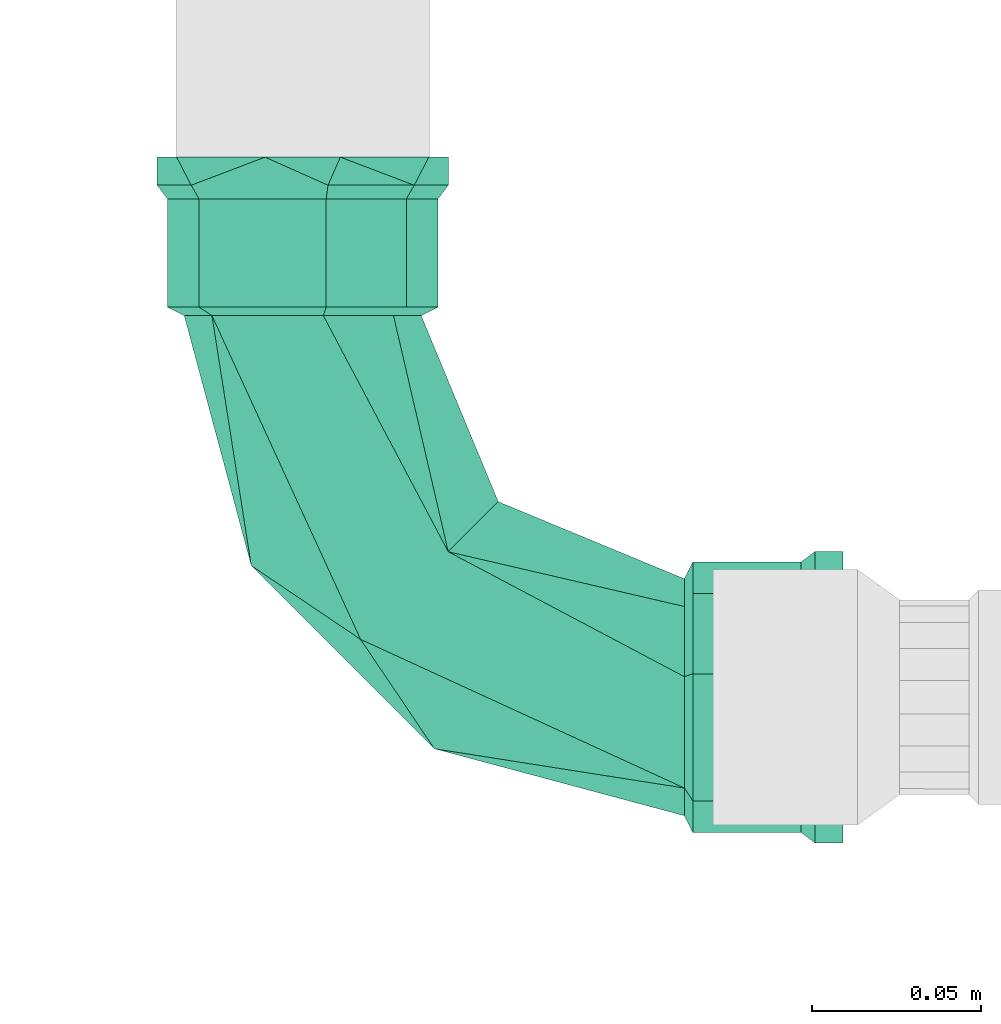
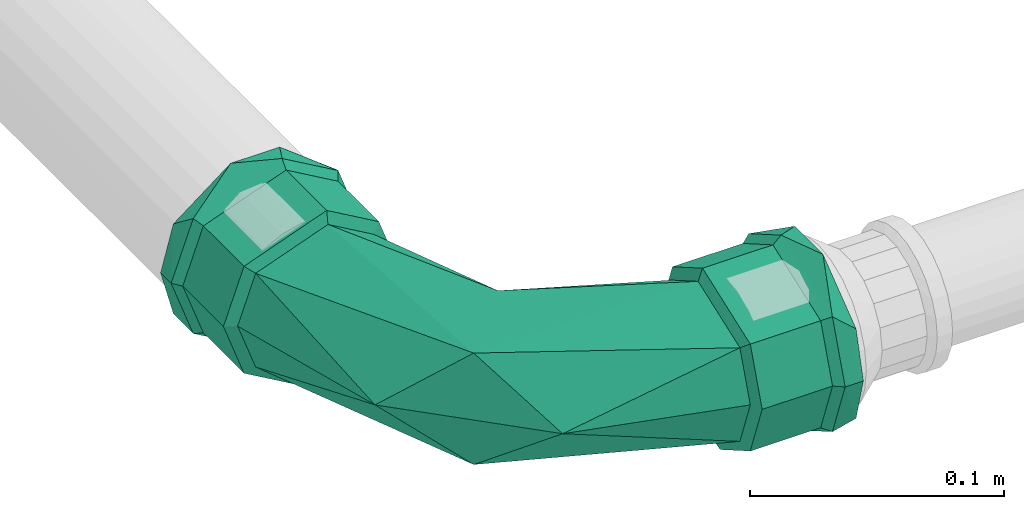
# One storey, part 45 of 166: 1 flow fitting.
"""IFC2X3 building model written with IfcOpenShell, lengths in metres."""

from ifc_helpers import new_model, entity, si_unit, converted_unit, direction, frame, origin, place, context, subcontext, project, spatial, faceted_brep, source, transform, mapped, material, type_object, type_shapes, element, save


model = new_model("IFC2X3")

# Units and contexts
model_context = context("Model", 3, precision=1e-05, world=origin(), true_north=direction((6.123233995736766e-17, 1.0)))
body_context = subcontext(model_context, "Body", "Model", "MODEL_VIEW")
ifc_project = project(units=[si_unit("LENGTHUNIT", "METRE"), converted_unit("PLANEANGLEUNIT", "DEGREE", entity("IfcPlaneAngleMeasure", 0.017453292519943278), si_unit("PLANEANGLEUNIT", "RADIAN"), dimensions=[0, 0, 0, 0, 0, 0, 0]), si_unit("AREAUNIT", "SQUARE_METRE")], contexts=[model_context])

# Site, building, storey
site_placement = place(None, origin())
site = spatial("IfcSite", under=ifc_project, at=site_placement, Name="Default", CompositionType="ELEMENT")
building_placement = place(site_placement, origin())
building = spatial("IfcBuilding", under=site, at=building_placement, Name="CASA DE ACOLHIDA PARA IDOSOS", CompositionType="ELEMENT")
storey_placement = place(building_placement, frame((0.0, 0.0, -1.7499999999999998)))
storey = spatial("IfcBuildingStorey", under=building, at=storey_placement, Name="IMPLANTAÇÃO DRENAGEM", CompositionType="ELEMENT", Elevation=-1.7499999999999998)

# Flow fitting
ifc_material = material(Name="PVC Marrom")
pipe_fitting_type = type_object("IfcPipeFittingType", Name="AF_Soldavel_Curva 45_90:Standard", PredefinedType="NOTDEFINED", material=ifc_material)
shared_shape = source(origin(), body_context, "Body", "Brep", [
    faceted_brep([(-0.1595599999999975, -0.01112921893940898, -0.041534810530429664), (-0.1595599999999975, -0.009705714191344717, -0.036222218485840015), (-0.1595599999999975, 0.00970571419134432, -0.03622221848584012), (-0.1595599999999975, -0.03723909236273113, -0.02149999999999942), (-0.1595599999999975, 0.011129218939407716, -0.041534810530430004), (-0.1595599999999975, -0.03247595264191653, -0.01874999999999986), (-0.1595599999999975, -0.037500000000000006, 0.0), (-0.1595599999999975, -0.043000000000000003, 0.0), (-0.1595599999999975, -0.032475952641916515, 0.018749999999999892), (-0.1595599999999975, -0.03723909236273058, 0.021499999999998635), (-0.1595599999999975, -0.009705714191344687, 0.03622221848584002), (-0.1595599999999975, -0.011129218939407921, 0.04153481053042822), (-0.1595599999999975, 0.00970571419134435, 0.03622221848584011), (-0.1595599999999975, 0.011129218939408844, 0.041534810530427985), (-0.1595599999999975, 0.03247595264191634, 0.018750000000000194), (-0.1595599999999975, 0.03723909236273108, 0.021499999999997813), (-0.1595599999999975, 0.043000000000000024, 0.0), (-0.1595599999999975, 0.037500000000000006, 0.0), (-0.1595599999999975, 0.03723909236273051, -0.021500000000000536), (-0.1595599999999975, 0.03247595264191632, -0.01875000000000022), (-0.1512599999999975, 0.043000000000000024, 0.0), (-0.1512599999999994, 0.03293946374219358, 0.027640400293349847), (-0.15126000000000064, 0.007465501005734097, 0.04234697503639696), (-0.1512599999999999, -0.032941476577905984, 0.027638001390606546), (-0.1512599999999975, -0.043000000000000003, 0.0), (-0.1512599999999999, -0.012737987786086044, 0.03499248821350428), (-0.15125999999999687, -0.03294147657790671, -0.027638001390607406), (-0.15125999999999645, -0.007468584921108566, -0.04234643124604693), (-0.1512599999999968, 0.03293946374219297, -0.027640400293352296), (-0.15125999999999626, 0.012735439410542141, -0.03499341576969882), (-0.14726000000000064, 0.006943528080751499, 0.03939273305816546), (-0.14725999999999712, -0.04, 0.0), (-0.14725999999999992, -0.0306445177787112, 0.02570823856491), (-0.14726000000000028, -0.01185049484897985, 0.03255048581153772), (-0.14725999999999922, 0.03064099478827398, 0.025712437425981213), (-0.14725999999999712, 0.04000000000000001, 0.0), (-0.14725999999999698, 0.030640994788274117, -0.025712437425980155), (-0.14725999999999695, 0.011846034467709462, -0.03255210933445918), (-0.14725999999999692, -0.030644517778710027, -0.02570823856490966), (-0.1472599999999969, -0.006948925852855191, -0.039391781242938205), (-0.11525999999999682, 0.04000000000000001, 0.0), (-0.1152599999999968, 0.03064034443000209, 0.025713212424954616), (-0.11525999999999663, 0.006941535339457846, 0.039393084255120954), (-0.1152599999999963, -0.030646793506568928, 0.025705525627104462), (-0.11525999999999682, -0.039999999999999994, 0.0), (-0.11525999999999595, -0.03064679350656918, -0.025705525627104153), (-0.11525999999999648, -0.006951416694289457, -0.03939134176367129), (-0.11525999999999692, 0.030640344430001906, -0.02571321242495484), (-0.11275999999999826, 0.02681594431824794, -0.022492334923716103), (-0.11275999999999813, -0.00607384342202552, -0.034468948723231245), (-0.1127599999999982, 0.03500000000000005, 0.0), (-0.1127599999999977, -0.026810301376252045, -0.02249906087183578), (-0.11275999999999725, -0.03500000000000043, 0.0), (-0.11276000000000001, -0.026810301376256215, 0.022499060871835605), (-0.11275999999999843, 0.0060824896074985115, 0.034467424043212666), (-0.11275999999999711, 0.026815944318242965, 0.022492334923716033), (-0.038879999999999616, -0.015203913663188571, 0.0), (-0.017106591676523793, 0.017106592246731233, 0.026797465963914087), (-0.006082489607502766, 0.11275999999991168, 0.0344674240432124), (-0.042993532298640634, 0.04299353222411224, 0.03203626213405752), (-0.05777537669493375, 0.05777537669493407, 0.0), (-0.0268159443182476, 0.1127599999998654, 0.02249233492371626), (0.015203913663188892, 0.03887999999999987, 0.0), (0.035000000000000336, 0.11275999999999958, 0.0), (0.026810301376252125, 0.11275999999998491, 0.022499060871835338), (-0.034999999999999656, 0.1127599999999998, 0.0), (-0.037770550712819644, 0.03777054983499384, -0.03435099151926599), (-0.05270496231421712, 0.052704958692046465, -0.021225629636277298), (-0.0268159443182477, 0.11275999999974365, -0.022492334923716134), (-0.01710659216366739, 0.01710659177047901, -0.02679746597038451), (0.0060738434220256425, 0.11275999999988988, -0.03446894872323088), (0.02681030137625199, 0.11275999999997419, -0.022499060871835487), (0.03064034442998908, 0.115259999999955, -0.025713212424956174), (0.03999999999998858, 0.11525999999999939, 0.0), (0.006941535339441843, 0.11525999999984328, -0.03939308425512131), (-0.04000000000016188, 0.11525999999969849, 0.0), (-0.030646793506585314, 0.11525999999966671, -0.02570552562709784), (-0.03064679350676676, 0.1152600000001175, 0.02570552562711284), (-0.006951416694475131, 0.11526000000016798, 0.039391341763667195), (0.030640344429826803, 0.1152600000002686, 0.025713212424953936), (0.03999999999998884, 0.14725999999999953, 0.0), (0.030640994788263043, 0.14726000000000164, 0.02571243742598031), (0.011846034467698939, 0.14726000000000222, 0.03255210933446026), (-0.006948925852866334, 0.14726000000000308, 0.039391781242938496), (-0.03064451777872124, 0.1472600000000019, 0.02570823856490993), (-0.04000000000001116, 0.14725999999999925, 0.0), (-0.030644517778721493, 0.14726000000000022, -0.025708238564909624), (-0.011850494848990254, 0.14726000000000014, -0.03255048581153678), (0.006943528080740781, 0.14725999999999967, -0.03939273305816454), (0.030640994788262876, 0.14725999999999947, -0.025712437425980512), (-0.03293946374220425, 0.15126000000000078, 0.02764040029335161), (-0.043000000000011, 0.1512599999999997, 0.0), (-0.007465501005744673, 0.15126000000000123, 0.042346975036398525), (0.032941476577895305, 0.15126000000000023, 0.027638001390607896), (0.012737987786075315, 0.15126000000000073, 0.03499248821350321), (0.04299999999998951, 0.1512599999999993, 0.0), (0.03294147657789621, 0.15126000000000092, -0.027638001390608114), (0.0074685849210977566, 0.1512600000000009, -0.042346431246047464), (-0.03293946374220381, 0.15126000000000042, -0.0276404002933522), (-0.012735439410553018, 0.15126000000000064, -0.03499341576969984), (-0.011129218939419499, 0.1595599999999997, -0.04153481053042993), (-0.009705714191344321, 0.1595599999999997, -0.03622221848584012), (0.009705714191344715, 0.1595599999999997, -0.036222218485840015), (-0.03723909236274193, 0.1595599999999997, -0.02149999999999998), (0.011129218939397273, 0.1595599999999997, -0.04153481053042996), (-0.03247595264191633, 0.1595599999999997, -0.01875000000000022), (-0.037500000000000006, 0.1595599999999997, 0.0), (-0.04300000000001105, 0.1595599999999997, 0.0), (-0.03247595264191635, 0.1595599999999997, 0.018750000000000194), (-0.03723909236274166, 0.1595599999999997, 0.02150000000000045), (-0.009705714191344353, 0.1595599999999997, 0.03622221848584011), (-0.011129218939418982, 0.1595599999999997, 0.041534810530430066), (0.009705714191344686, 0.1595599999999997, 0.03622221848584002), (0.01112921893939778, 0.1595599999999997, 0.04153481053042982), (0.03247595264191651, 0.1595599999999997, 0.018749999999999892), (0.03723909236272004, 0.1595599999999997, 0.02149999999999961), (0.04299999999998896, 0.1595599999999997, 0.0), (0.0375, 0.1595599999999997, 0.0), (0.03723909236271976, 0.1595599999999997, -0.0215000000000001), (0.03247595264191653, 0.1595599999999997, -0.01874999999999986), (-0.11525999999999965, 0.009705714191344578, -0.036222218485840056), (-0.11525999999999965, -0.009705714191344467, -0.036222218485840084), (-0.11525999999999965, -0.032475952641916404, -0.018750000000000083), (-0.11525999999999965, -0.037500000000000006, 0.0), (-0.11525999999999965, -0.03247595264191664, 0.018749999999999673), (-0.11525999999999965, -0.009705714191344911, 0.03622221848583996), (-0.11525999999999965, 0.009705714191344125, 0.036222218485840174), (-0.11525999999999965, 0.032475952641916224, 0.01875000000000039), (-0.11525999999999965, 0.037500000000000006, 0.0), (-0.11525999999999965, 0.03247595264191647, -0.018749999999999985), (0.009705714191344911, 0.11526000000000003, 0.03622221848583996), (-0.009705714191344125, 0.11526000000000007, 0.036222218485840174), (-0.009705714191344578, 0.11526000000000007, -0.036222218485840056), (0.009705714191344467, 0.11526000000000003, -0.036222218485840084), (-0.03247595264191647, 0.1152600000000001, -0.018749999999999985), (-0.037500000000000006, 0.11526000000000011, 0.0), (-0.032475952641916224, 0.1152600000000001, 0.01875000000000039), (0.03247595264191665, 0.11526, 0.01874999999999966), (0.037500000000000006, 0.11525999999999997, 0.0), (0.032475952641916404, 0.11526, -0.018750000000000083)], [[[0, 1, 2]], [[1, 0, 3]], [[2, 4, 0]], [[3, 5, 1]], [[3, 6, 5]], [[6, 3, 7]], [[8, 6, 7]], [[8, 7, 9]], [[9, 10, 8]], [[9, 11, 10]], [[10, 11, 12]], [[13, 12, 11]], [[13, 14, 12]], [[14, 13, 15]], [[16, 14, 15]], [[17, 14, 16]], [[18, 17, 16]], [[18, 19, 17]], [[19, 18, 4]], [[4, 2, 19]], [[16, 15, 20]], [[15, 21, 20]], [[21, 15, 13]], [[21, 13, 22]], [[23, 11, 9]], [[24, 9, 7]], [[11, 23, 25, 22]], [[23, 9, 24]], [[11, 22, 13]], [[7, 3, 24]], [[3, 26, 24]], [[26, 3, 0]], [[26, 0, 27]], [[28, 4, 18]], [[20, 18, 16]], [[4, 28, 29, 27]], [[28, 18, 20]], [[4, 27, 0]], [[25, 30, 22]], [[31, 32, 24]], [[24, 32, 23]], [[23, 33, 25]], [[34, 35, 21]], [[23, 32, 33]], [[21, 22, 34]], [[20, 21, 35]], [[30, 25, 33]], [[34, 22, 30]], [[35, 36, 28]], [[28, 20, 35]], [[36, 29, 28]], [[36, 37, 29]], [[37, 27, 29]], [[38, 31, 24]], [[38, 26, 39]], [[26, 38, 24]], [[27, 37, 39]], [[39, 26, 27]], [[35, 34, 40]], [[34, 41, 40]], [[41, 34, 30]], [[41, 30, 42]], [[32, 31, 43]], [[32, 43, 42]], [[43, 31, 44]], [[42, 30, 33, 32]], [[31, 38, 45]], [[31, 45, 44]], [[45, 38, 46]], [[38, 39, 46]], [[47, 39, 37, 36]], [[36, 40, 47]], [[40, 36, 35]], [[39, 47, 46]], [[48, 49, 47]], [[50, 48, 40]], [[40, 48, 47]], [[49, 46, 47]], [[51, 52, 45]], [[45, 46, 51]], [[44, 45, 52]], [[51, 46, 49]], [[52, 53, 43]], [[43, 44, 52]], [[42, 43, 53]], [[53, 54, 42]], [[55, 50, 40]], [[55, 41, 54]], [[41, 55, 40]], [[54, 41, 42]], [[52, 56, 53]], [[53, 57, 54]], [[57, 58, 59]], [[59, 55, 54]], [[50, 55, 60]], [[58, 61, 59]], [[57, 56, 62]], [[57, 59, 54]], [[62, 63, 64]], [[57, 53, 56]], [[64, 58, 57]], [[65, 60, 61]], [[60, 55, 59]], [[60, 59, 61]], [[62, 64, 57]], [[66, 67, 68]], [[69, 66, 70]], [[62, 69, 71]], [[52, 51, 56]], [[56, 51, 69]], [[69, 49, 66]], [[50, 60, 67]], [[65, 68, 67]], [[66, 48, 67]], [[49, 48, 66]], [[70, 66, 68]], [[62, 56, 69]], [[70, 71, 69]], [[71, 63, 62]], [[51, 49, 69]], [[60, 65, 67]], [[50, 67, 48]], [[63, 71, 72, 73]], [[74, 72, 71, 70]], [[68, 65, 75, 76]], [[68, 76, 74, 70]], [[65, 61, 77, 75]], [[78, 77, 61, 58]], [[64, 63, 73, 79]], [[64, 79, 78, 58]], [[80, 81, 73]], [[81, 79, 73]], [[79, 81, 82, 83]], [[79, 83, 78]], [[84, 85, 77]], [[84, 77, 78]], [[77, 85, 75]], [[84, 78, 83]], [[85, 86, 76]], [[85, 76, 75]], [[76, 86, 74]], [[74, 86, 87, 88]], [[88, 89, 72]], [[89, 73, 72]], [[73, 89, 80]], [[88, 72, 74]], [[84, 83, 90]], [[85, 84, 91]], [[91, 84, 90]], [[83, 92, 90]], [[81, 80, 93]], [[81, 93, 94]], [[82, 92, 83]], [[95, 93, 80]], [[92, 82, 94]], [[82, 81, 94]], [[80, 89, 96]], [[96, 95, 80]], [[97, 96, 89]], [[98, 99, 87]], [[89, 88, 97]], [[86, 85, 91]], [[98, 87, 86]], [[98, 86, 91]], [[88, 99, 97]], [[99, 88, 87]], [[100, 101, 102]], [[101, 100, 103]], [[102, 104, 100]], [[103, 105, 101]], [[103, 106, 105]], [[106, 103, 107]], [[108, 106, 107]], [[108, 107, 109]], [[109, 110, 108]], [[109, 111, 110]], [[110, 111, 112]], [[113, 112, 111]], [[113, 114, 112]], [[114, 113, 115]], [[116, 114, 115]], [[117, 114, 116]], [[118, 117, 116]], [[118, 119, 117]], [[119, 118, 104]], [[104, 102, 119]], [[116, 115, 95]], [[115, 93, 95]], [[93, 115, 113]], [[113, 92, 94, 93]], [[90, 111, 109]], [[91, 109, 107]], [[111, 90, 92]], [[90, 109, 91]], [[111, 92, 113]], [[107, 103, 91]], [[103, 98, 91]], [[98, 103, 100]], [[100, 97, 99, 98]], [[96, 104, 118]], [[95, 118, 116]], [[104, 96, 97]], [[96, 118, 95]], [[104, 97, 100]], [[120, 121, 122, 123, 124, 125, 126, 127, 128, 129]], [[124, 123, 6, 8]], [[125, 124, 8, 10]], [[10, 12, 126, 125]], [[130, 131, 110, 112]], [[127, 126, 12, 14]], [[128, 127, 14, 17]], [[129, 128, 17, 19]], [[120, 129, 19, 2]], [[2, 1, 121, 120]], [[132, 133, 102, 101]], [[122, 121, 1, 5]], [[123, 122, 5, 6]], [[132, 134, 135, 136, 131, 130, 137, 138, 139, 133]], [[114, 117, 138, 137]], [[112, 114, 137, 130]], [[108, 110, 131, 136]], [[106, 108, 136, 135]], [[105, 106, 135, 134]], [[101, 105, 134, 132]], [[119, 102, 133, 139]], [[117, 119, 139, 138]]]),
])
type_shapes(pipe_fitting_type, [shared_shape])
flow_fitting_placement = place(storey_placement, frame((-52.13705372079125, -16.745057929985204, -0.2), z_axis=(0.0, 0.0, 1.0), x_axis=(0.0, -1.0, 0.0)))
element("IfcFlowFitting", 1, at=flow_fitting_placement, inside=storey, type_object=pipe_fitting_type, material=ifc_material, Name="AF_Soldavel_Curva 45_90:Standard", ObjectType="AF_Soldavel_Curva 45_90:Standard", context=body_context, shape_type="MappedRepresentation", body=[
    mapped(shared_shape, transform((0.0, 0.0, 0.0), scale=1.0)),
])

save(model, "model.ifc")
